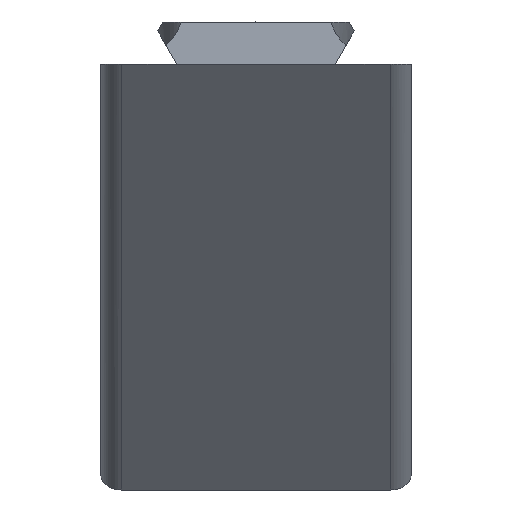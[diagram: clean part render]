
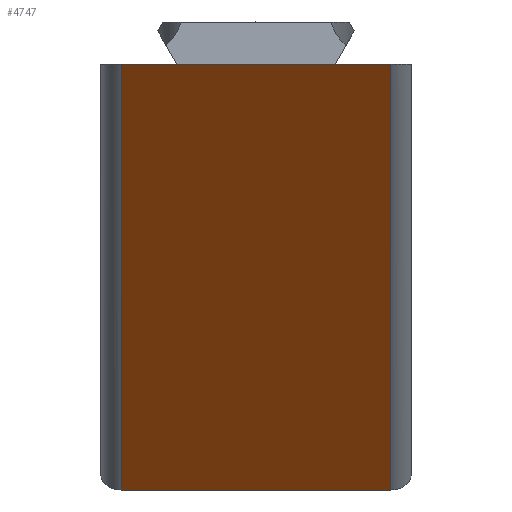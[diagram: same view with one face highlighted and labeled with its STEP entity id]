
A CAD part, left-side view. The second image highlights one B-rep face of the part: STEP entity #4747.
In plain terms, the highlighted planar face has unit normal (-0.731, 0, -0.682).
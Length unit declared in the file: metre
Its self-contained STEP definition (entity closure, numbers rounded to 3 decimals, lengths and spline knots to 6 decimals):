
#654=ORIENTED_EDGE('',*,*,#1854,.T.);
#655=ORIENTED_EDGE('',*,*,#2061,.T.);
#656=ORIENTED_EDGE('',*,*,#1808,.F.);
#657=ORIENTED_EDGE('',*,*,#2062,.T.);
#658=ORIENTED_EDGE('',*,*,#1870,.T.);
#659=ORIENTED_EDGE('',*,*,#2056,.T.);
#1808=EDGE_CURVE('',#2527,#2528,#3006,.T.);
#1854=EDGE_CURVE('',#2574,#2573,#3029,.T.);
#1870=EDGE_CURVE('',#2590,#2589,#3039,.T.);
#2056=EDGE_CURVE('',#2589,#2574,#3141,.T.);
#2061=EDGE_CURVE('',#2573,#2528,#3142,.T.);
#2062=EDGE_CURVE('',#2527,#2590,#3143,.F.);
#2527=VERTEX_POINT('',#6438);
#2528=VERTEX_POINT('',#6440);
#2573=VERTEX_POINT('',#6534);
#2574=VERTEX_POINT('',#6536);
#2589=VERTEX_POINT('',#6566);
#2590=VERTEX_POINT('',#6568);
#3006=LINE('',#6439,#3489);
#3029=LINE('',#6535,#3512);
#3039=LINE('',#6567,#3522);
#3141=LINE('',#7055,#3624);
#3142=LINE('',#7066,#3625);
#3143=LINE('',#7067,#3626);
#3489=VECTOR('',#5332,1.);
#3512=VECTOR('',#5409,1.);
#3522=VECTOR('',#5431,1.);
#3624=VECTOR('',#5607,1.);
#3625=VECTOR('',#5624,1.);
#3626=VECTOR('',#5625,1.);
#4011=EDGE_LOOP('',(#654,#655,#656,#657,#658,#659));
#4314=FACE_BOUND('',#4011,.T.);
#4590=PLANE('',#5087);
#4747=ADVANCED_FACE('',(#4314),#4590,.F.);
#5087=AXIS2_PLACEMENT_3D('',#7065,#5622,#5623);
#5332=DIRECTION('',(0.,1.,0.));
#5409=DIRECTION('',(0.,1.,0.));
#5431=DIRECTION('',(0.,1.,0.));
#5607=DIRECTION('',(0.,1.,0.));
#5622=DIRECTION('',(0.731,0.,0.682));
#5623=DIRECTION('',(0.682,0.,-0.731));
#5624=DIRECTION('',(0.682,0.,-0.731));
#5625=DIRECTION('',(0.682,0.,-0.731));
#6438=CARTESIAN_POINT('',(0.038389,-0.013,-0.041167));
#6439=CARTESIAN_POINT('',(0.038389,-0.015,-0.041167));
#6440=CARTESIAN_POINT('',(0.038389,0.013,-0.041167));
#6534=CARTESIAN_POINT('',(0.,0.013,0.));
#6535=CARTESIAN_POINT('',(0.,-0.015,0.));
#6536=CARTESIAN_POINT('',(0.,0.007695,0.));
#6566=CARTESIAN_POINT('',(0.,-0.007695,0.));
#6567=CARTESIAN_POINT('',(0.,-0.015,0.));
#6568=CARTESIAN_POINT('',(0.,-0.013,0.));
#7055=CARTESIAN_POINT('',(0.,0.,0.));
#7065=CARTESIAN_POINT('',(0.019194,-0.015,-0.020583));
#7066=CARTESIAN_POINT('',(0.019194,0.013,-0.020583));
#7067=CARTESIAN_POINT('',(0.,-0.013,0.));
